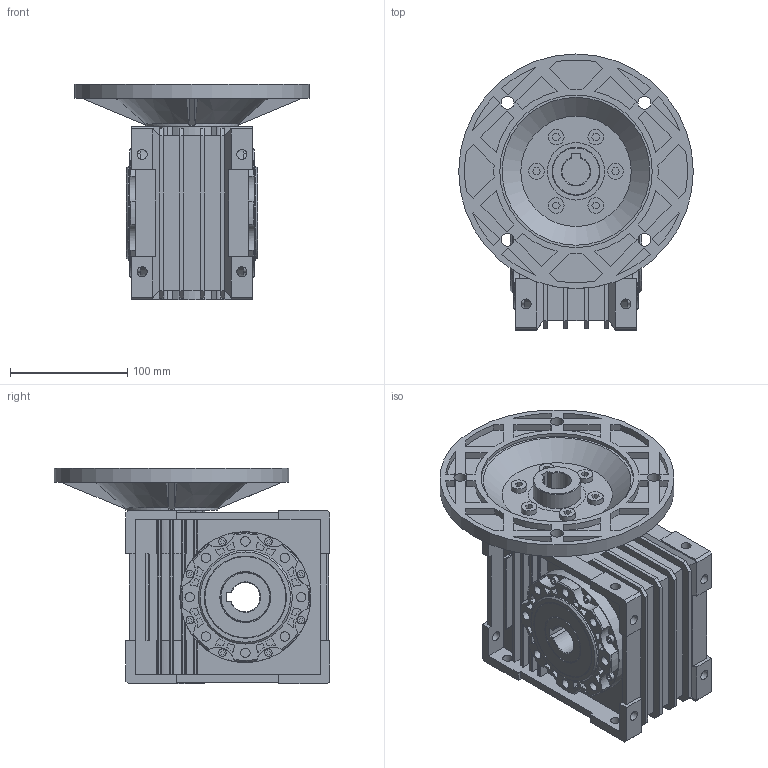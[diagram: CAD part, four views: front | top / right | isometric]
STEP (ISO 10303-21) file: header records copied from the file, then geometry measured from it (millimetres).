
FILE_DESCRIPTION(/* description */ (''),/* implementation_level */ '2;1');
FILE_NAME(/* name */ 'Z:\동력 3D 파일\PCMRV063_90B5_3D.stp',/* time_stamp */ '2021-12-01T16:44:36+09:00',/* author */ ('jaebok'),/* organization */ (''),/* preprocessor_version */ 'ST-DEVELOPER v18.1',/* originating_system */ 'Autodesk Inventor 2022',/* authorisation */ '');
FILE_SCHEMA (('AUTOMOTIVE_DESIGN { 1 0 10303 214 3 1 1 }'));
Length unit declared in the file: millimetre
Products named in the file (1): 부품49
Bounding box: 200 x 235 x 184 mm (x, y, z)
Volume: 2379752.6 mm3; surface area: 296129.8 mm2
Topology: 1 solids, 6 shells, 1003 faces, 2554 edges, 1695 vertices
Faces by surface type: plane 647, cylinder 323, cone 33
Full cylindrical faces by diameter (mm): 3.698 x8, 6.5 x16, 8 x16, 8.5 x16, 11 x4, 13.331 x6, 40.8 x1, 48.3 x2, 48.96 x1, 49.3 x2, 70 x2, 79 x1, 80 x2, 111.6 x2, 130 x1, 200 x1
Entity records: 31637 total; most frequent: CARTESIAN_POINT 5533, DIRECTION 5222, ORIENTED_EDGE 5108, EDGE_CURVE 2554, LINE 1782, VECTOR 1782, AXIS2_PLACEMENT_3D 1720, VERTEX_POINT 1695
